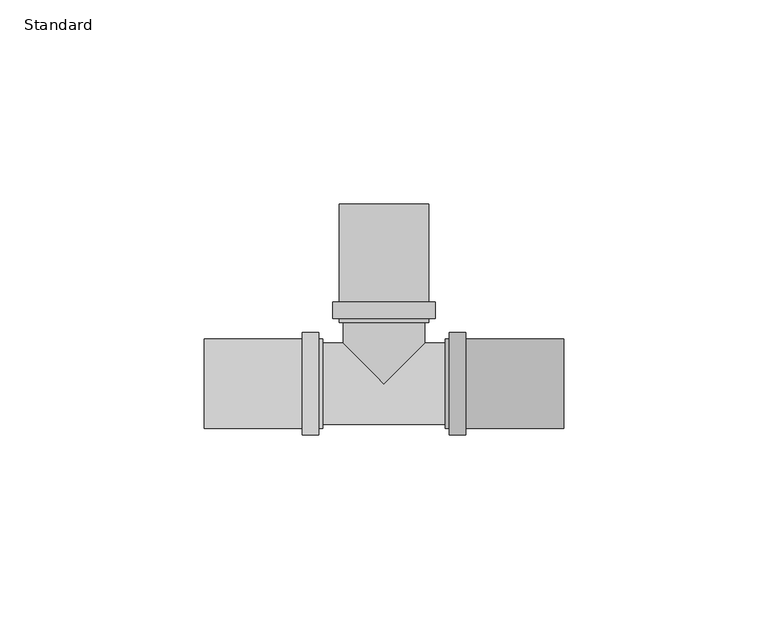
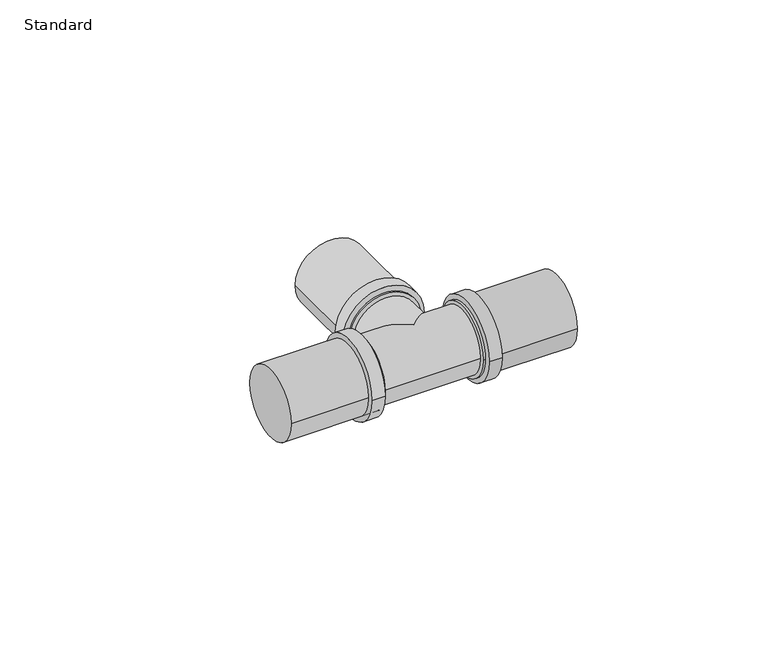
"""IFC4 building model written with IfcOpenShell, lengths in millimetres: pipe fitting geometry, COMAP - SKINPRESS ppsu - Té_égal_réduit_9130W_9130RW : Standard."""

from ifc_helpers import new_model, si_unit, point, frame, origin, origin_2d, place, context, project, spatial, circle_curve, ellipse_curve, trimmed, segment, composite_curve, outline, extrude, source, transform, mapped, element, save
from ifc_brep_helpers import plane_surface, cylinder_surface, advanced_brep


def standard_741b53db(model_context):
    return source(origin(), model_context, "Body", "SolidModel", [
        extrude(outline(composite_curve([segment(trimmed(circle_curve(origin_2d(), 12.5), [point((12.5, 0.0))], [point((-12.5, 0.0))], False, "CARTESIAN"), True, "CONTINUOUS"), segment(trimmed(circle_curve(origin_2d(), 12.5), [point((-12.5, 0.0))], [point((12.5, 0.0))], False, "CARTESIAN"), True, "CONTINUOUS")], self_intersect=False)), frame((16.0, 0.0, 0.0), z_axis=(1.0, 0.0, 0.0), x_axis=(0.0, 1.0, 0.0)), (0.0, 0.0, 1.0), 4.0),
        extrude(outline(composite_curve([segment(trimmed(circle_curve(origin_2d(), 11.0), [point((11.0, 0.0))], [point((-11.0, 0.0))], False, "CARTESIAN"), True, "CONTINUOUS"), segment(trimmed(circle_curve(origin_2d(), 11.0), [point((-11.0, 0.0))], [point((11.0, 0.0))], False, "CARTESIAN"), True, "CONTINUOUS")], self_intersect=False)), frame((15.0, 0.0, 0.0), z_axis=(1.0, 0.0, 0.0), x_axis=(0.0, 1.0, 0.0)), (0.0, 0.0, 1.0), 29.0),
        extrude(outline(composite_curve([segment(trimmed(circle_curve(origin_2d(), 12.5), [point((-12.5, 0.0))], [point((12.5, 0.0))], False, "CARTESIAN"), True, "CONTINUOUS"), segment(trimmed(circle_curve(origin_2d(), 12.5), [point((12.5, 0.0))], [point((-12.5, 0.0))], False, "CARTESIAN"), True, "CONTINUOUS")], self_intersect=False)), frame((-20.0, 0.0, 0.0), z_axis=(1.0, 0.0, 0.0), x_axis=(0.0, 1.0, 0.0)), (0.0, 0.0, 1.0), 4.0),
        extrude(outline(composite_curve([segment(trimmed(circle_curve(origin_2d(), 11.0), [point((-11.0, 0.0))], [point((11.0, 0.0))], False, "CARTESIAN"), True, "CONTINUOUS"), segment(trimmed(circle_curve(origin_2d(), 11.0), [point((11.0, 0.0))], [point((-11.0, 0.0))], False, "CARTESIAN"), True, "CONTINUOUS")], self_intersect=False)), frame((-44.0, 0.0, 0.0), z_axis=(1.0, 0.0, 0.0), x_axis=(0.0, 1.0, 0.0)), (0.0, 0.0, 1.0), 29.0),
        extrude(outline(composite_curve([segment(trimmed(circle_curve(origin_2d(), 12.5), [point((0.0, -12.5))], [point((0.0, 12.5))], False, "CARTESIAN"), True, "CONTINUOUS"), segment(trimmed(circle_curve(origin_2d(), 12.5), [point((0.0, 12.5))], [point((0.0, -12.5))], False, "CARTESIAN"), True, "CONTINUOUS")], self_intersect=False)), frame((0.0, 16.0, 0.0), z_axis=(0.0, 1.0, 0.0), x_axis=(0.0, 0.0, 1.0)), (0.0, 0.0, 1.0), 4.0),
        extrude(outline(composite_curve([segment(trimmed(circle_curve(origin_2d(), 11.0), [point((0.0, -11.0))], [point((0.0, 11.0))], False, "CARTESIAN"), True, "CONTINUOUS"), segment(trimmed(circle_curve(origin_2d(), 11.0), [point((0.0, 11.0))], [point((0.0, -11.0))], False, "CARTESIAN"), True, "CONTINUOUS")], self_intersect=False)), frame((0.0, 15.0, 0.0), z_axis=(0.0, 1.0, 0.0), x_axis=(0.0, 0.0, 1.0)), (0.0, 0.0, 1.0), 29.0),
        advanced_brep(
        [(-10.0, 15.0, 0.0), (10.0, 15.0, 0.0), (10.0, 10.0, 0.0), (0.0, 0.0, -10.0), (-10.0, 10.0, 0.0), (0.0, 0.0, 10.0), (15.0, -10.0, 0.0), (15.0, 10.0, 0.0), (-15.0, -10.0, 0.0), (-15.0, 10.0, 0.0)],
        [
            (0, 1, circle_curve(frame((0.0, 15.0, 0.0), z_axis=(0.0, 1.0, 0.0), x_axis=(1.0, 0.0, 0.0)), 10.0)),
            (1, 0, circle_curve(frame((0.0, 15.0, 0.0), z_axis=(0.0, 1.0, 0.0), x_axis=(1.0, 0.0, 0.0)), 10.0)),
            (1, 2),
            (2, 3, ellipse_curve(frame((0.0, 0.0, 0.0), z_axis=(-0.7071067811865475, 0.7071067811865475, 0.0), x_axis=(-0.7071067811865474, -0.7071067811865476, 0.0)), 14.1421356, 10.0)),
            (3, 4, ellipse_curve(frame((0.0, 0.0, 0.0), z_axis=(0.7071067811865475, 0.7071067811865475, 0.0), x_axis=(0.7071067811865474, -0.7071067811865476, 0.0)), 14.1421356, 10.0)),
            (4, 0),
            (4, 5, ellipse_curve(frame((0.0, 0.0, 0.0), z_axis=(0.7071067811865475, 0.7071067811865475, 0.0), x_axis=(0.7071067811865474, -0.7071067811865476, 0.0)), 14.1421356, 10.0)),
            (5, 2, ellipse_curve(frame((0.0, 0.0, 0.0), z_axis=(-0.7071067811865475, 0.7071067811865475, 0.0), x_axis=(-0.7071067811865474, -0.7071067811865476, 0.0)), 14.1421356, 10.0)),
            (6, 7, circle_curve(frame((15.0, 0.0, 0.0), z_axis=(1.0, 0.0, 0.0), x_axis=(0.0, 1.0, 0.0)), 10.0)),
            (7, 6, circle_curve(frame((15.0, 0.0, 0.0), z_axis=(1.0, 0.0, 0.0), x_axis=(0.0, 1.0, 0.0)), 10.0)),
            (8, 9, circle_curve(frame((-15.0, 0.0, 0.0), z_axis=(-1.0, 0.0, 0.0), x_axis=(0.0, 1.0, 0.0)), 10.0)),
            (9, 8, circle_curve(frame((-15.0, 0.0, 0.0), z_axis=(-1.0, 0.0, 0.0), x_axis=(0.0, 1.0, 0.0)), 10.0)),
            (6, 8),
            (9, 4),
            (2, 7),
        ],
        [
            plane_surface(frame((10.0, 15.0, 0.0), z_axis=(0.0, 1.0, 0.0), x_axis=(0.0, 0.0, -1.0))),
            cylinder_surface(frame((0.0, 15.0, 0.0), z_axis=(0.0, -1.0, 0.0), x_axis=(1.0, 0.0, 0.0)), 10.0),
            plane_surface(frame((15.0, 10.0, 0.0), z_axis=(1.0, 0.0, 0.0), x_axis=(0.0, 0.0, 1.0))),
            plane_surface(frame((-15.0, 10.0, 0.0), z_axis=(-1.0, 0.0, 0.0), x_axis=(0.0, 0.0, -1.0))),
            cylinder_surface(frame((-15.0, 0.0, 0.0), z_axis=(1.0, 0.0, 0.0), x_axis=(0.0, 1.0, 0.0)), 10.0),
        ],
        [
            (0, [[1, 2]]),
            (1, [[-2, 3, 4, 5, 6]]),
            (1, [[-1, -6, 7, 8, -3]]),
            (2, [[9, 10]]),
            (3, [[11, 12]]),
            (4, [[-9, 13, -12, 14, -5, -4, 15]]),
            (4, [[-10, -15, -8, -7, -14, -11, -13]]),
        ],
    ),
    ])


if __name__ == "__main__":
    model = new_model("IFC4")
    model_context = context("Model", 3, world=origin())
    ifc_project = project(units=[si_unit("LENGTHUNIT", "METRE", prefix="MILLI")], contexts=[model_context])
    site = spatial("IfcSite", under=ifc_project)
    building = spatial("IfcBuilding", under=site)
    placement = place(None, origin())
    standard_shape = standard_741b53db(model_context)
    element("IfcPipeFitting", 1, ObjectType="COMAP - SKINPRESS ppsu - Té_égal_réduit_9130W_9130RW : Standard", at=placement, inside=building, context=model_context, shape_type="MappedRepresentation", body=[
        mapped(standard_shape, transform((0.0, 0.0, 0.0), x_axis=(1.0, 0.0, 0.0), y_axis=(0.0, 1.0, 0.0), z_axis=(0.0, 0.0, 1.0))),
    ])
    save(model, "model.ifc")
